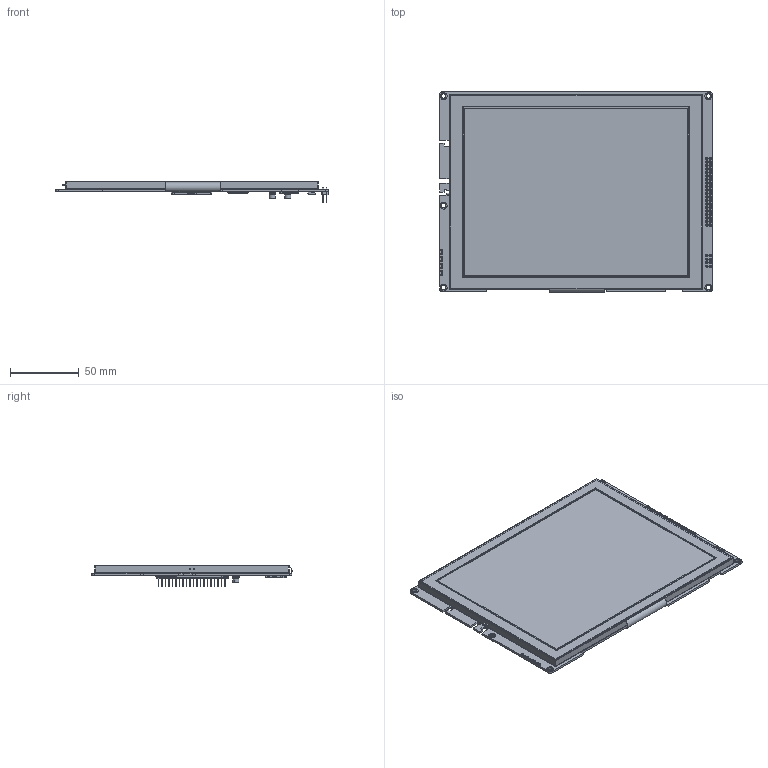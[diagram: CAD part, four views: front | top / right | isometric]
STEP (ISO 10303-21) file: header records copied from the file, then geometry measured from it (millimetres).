
FILE_DESCRIPTION (( 'STEP AP214' ), '1' );
FILE_NAME ('ER-TFT080-2-5799.STEP', '2025-11-03T09:56:26', ( '微软用户' ), ( '微软中国' ), 'SwSTEP 2.0', 'SolidWorks 2023', '' );
FILE_SCHEMA (( 'AUTOMOTIVE_DESIGN' ));
Length unit declared in the file: millimetre
Products named in the file (9): ER-LT7683_Controller; pin header_2x20PIN; PCBA_080-2; ER-TFT080-2-5799; ER-TFT080-2; ER-microSD; FPC Connector-50P; 40 Pin 1.0mm Pitch Bottom Contact ZIF Connector; 100uF 16V 6.3x7.7mm SMD Aluminum v3
Assembly tree (8 placements, depth 2):
  ER-TFT080-2-5799
    PCBA_080-2
    ER-TFT080-2
    40 Pin 1.0mm Pitch Bottom Contact ZIF Connector
    pin header_2x20PIN
    FPC Connector-50P
    100uF 16V 6.3x7.7mm SMD Aluminum v3
    ER-microSD
    ER-LT7683_Controller
Bounding box: 198 x 145.24 x 15.9 mm (x, y, z)
Volume: 187023.3 mm3; surface area: 190796.8 mm2
Topology: 176 solids, 176 shells, 9190 faces, 25129 edges, 16441 vertices
Faces by surface type: plane 7084, cylinder 1184, bspline 920, cone 2
Entity records: 409583 total; most frequent: CARTESIAN_POINT 94279, ORIENTED_EDGE 50258, DIRECTION 41937, EDGE_CURVE 25129, LINE 20327, VECTOR 20327, VERTEX_POINT 16441, AXIS2_PLACEMENT_3D 10805
